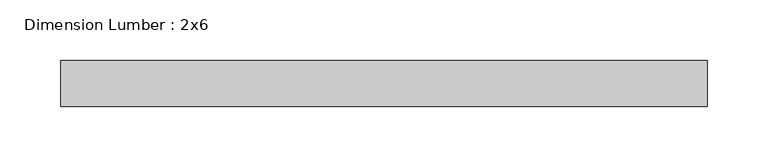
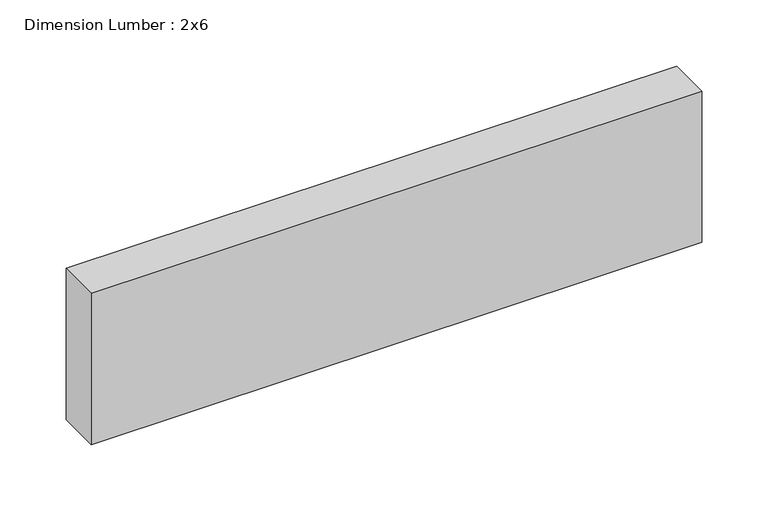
"""IFC4 building model written with IfcOpenShell, lengths in millimetres: beam geometry, Dimension Lumber : 2x6."""

from ifc_helpers import new_model, si_unit, frame, origin, place, context, project, spatial, polyline, outline, extrude, source, transform, mapped, element, save


def dimension_lumber_2x6_2ad6867e(model_context):
    return source(origin(), model_context, "Body", "SweptSolid", [
        extrude(outline(polyline([(247.65, 19.05), (247.65, -19.05), (-285.75, -19.05), (-285.75, 19.05), (247.65, 19.05)])), frame((0.0, 0.0, -69.85), z_axis=(0.0, 0.0, 1.0), x_axis=(1.0, 0.0, 0.0)), (0.0, 0.0, 1.0), 139.7),
    ])


if __name__ == "__main__":
    model = new_model("IFC4")
    model_context = context("Model", 3, world=origin())
    ifc_project = project(units=[si_unit("LENGTHUNIT", "METRE", prefix="MILLI")], contexts=[model_context])
    site = spatial("IfcSite", under=ifc_project)
    building = spatial("IfcBuilding", under=site)
    placement = place(None, origin())
    dimension_lumber_2x6_shape = dimension_lumber_2x6_2ad6867e(model_context)
    element("IfcBeam", 1, ObjectType="Dimension Lumber : 2x6", at=placement, inside=building, context=model_context, shape_type="MappedRepresentation", body=[
        mapped(dimension_lumber_2x6_shape, transform((0.0, 0.0, 0.0), x_axis=(1.0, 0.0, 0.0), y_axis=(0.0, 1.0, 0.0), z_axis=(0.0, 0.0, 1.0))),
    ])
    save(model, "model.ifc")
